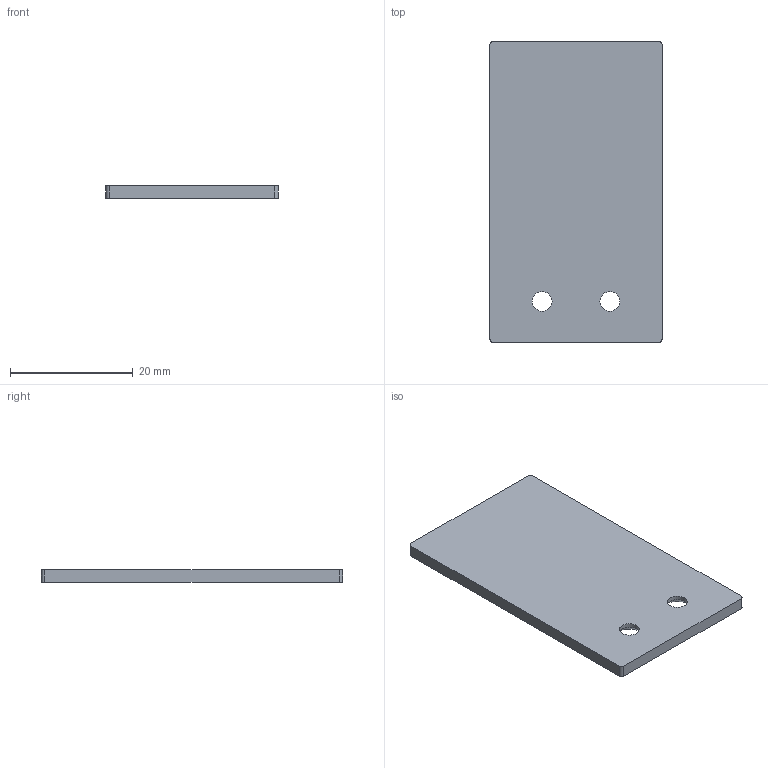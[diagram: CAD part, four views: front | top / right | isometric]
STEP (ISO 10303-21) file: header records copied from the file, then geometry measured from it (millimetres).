
FILE_DESCRIPTION(/* description */ ('Unknown'),/* implementation_level */ '2;1');
FILE_NAME(/* name */ '98464',/* time_stamp */ '2023-02-07T07:51:56-05:00',/* author */ ('Unknown'),/* organization */ ('Unknown'),/* preprocessor_version */ 'ST-DEVELOPER v18.1',/* originating_system */ 'Solid Edge',/* authorisation */ 'Unknown');
FILE_SCHEMA (('AP242_MANAGED_MODEL_BASED_3D_ENGINEERING_MIM_LF { 1 0 10303 442 1 1 4 }','AUTOMOTIVE_DESIGN {1 0 10303 214 3 1 1}'));
Length unit declared in the file: millimetre
Products named in the file (1): LED-TAP139
Bounding box: 28 x 49 x 2 mm (x, y, z)
Volume: 2689.8 mm3; surface area: 3047 mm2
Topology: 1 solids, 1 shells, 14 faces, 36 edges, 24 vertices
Faces by surface type: cylinder 6, plane 6, cone 2
Full cylindrical faces by diameter (mm): 3.2 x2
Entity records: 434 total; most frequent: DIRECTION 74, CARTESIAN_POINT 67, ORIENTED_EDGE 60, EDGE_CURVE 30, AXIS2_PLACEMENT_3D 29, VERTEX_POINT 22, EDGE_LOOP 22, FACE_BOUND 22
